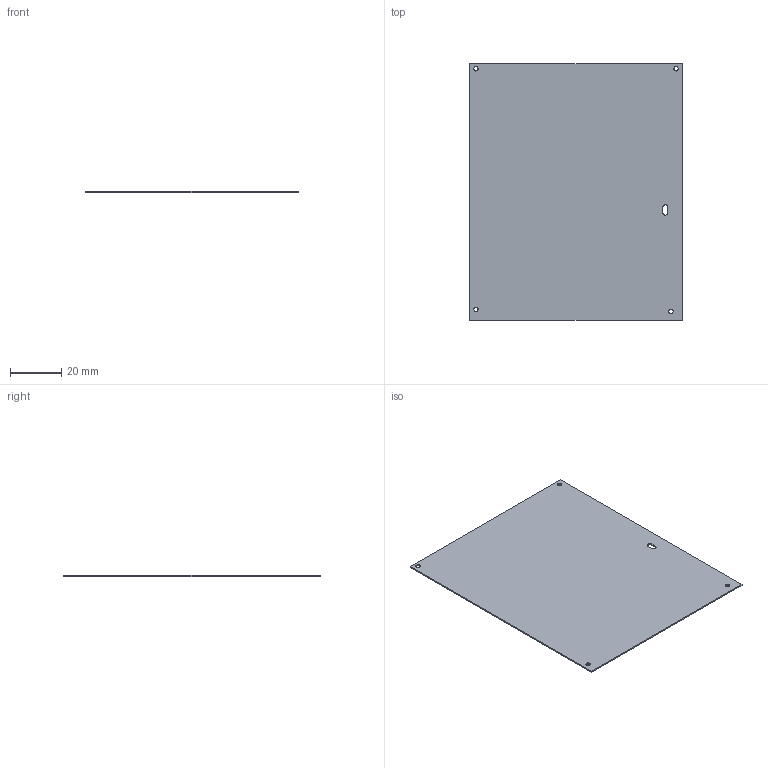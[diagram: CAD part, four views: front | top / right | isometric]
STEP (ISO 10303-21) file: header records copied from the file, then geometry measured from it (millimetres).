
FILE_DESCRIPTION((''),'2;1');
FILE_NAME('SOLAR_CELLS_BOARD_RIHT-LEFT','2020-03-13T',('g0715'),(''),'PRO/ENGINEER BY PARAMETRIC TECHNOLOGY CORPORATION, 2014090','PRO/ENGINEER BY PARAMETRIC TECHNOLOGY CORPORATION, 2014090','');
FILE_SCHEMA(('CONFIG_CONTROL_DESIGN'));
Length unit declared in the file: millimetre
Products named in the file (1): SOLAR_CELLS_BOARD_RIHT-LEFT
Bounding box: 83 x 100 x 0.5 mm (x, y, z)
Volume: 4141.9 mm3; surface area: 16766.4 mm2
Topology: 1 solids, 1 shells, 18 faces, 48 edges, 32 vertices
Faces by surface type: cylinder 10, plane 8
Entity records: 630 total; most frequent: DIRECTION 104, CARTESIAN_POINT 98, ORIENTED_EDGE 96, EDGE_CURVE 48, AXIS2_PLACEMENT_3D 38, VERTEX_POINT 32, VECTOR 28, LINE 28
